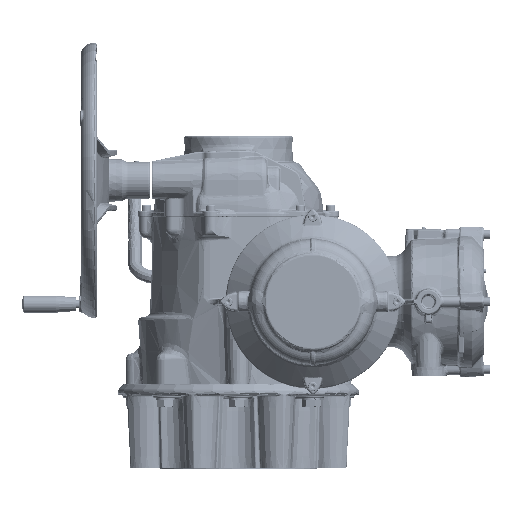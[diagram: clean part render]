
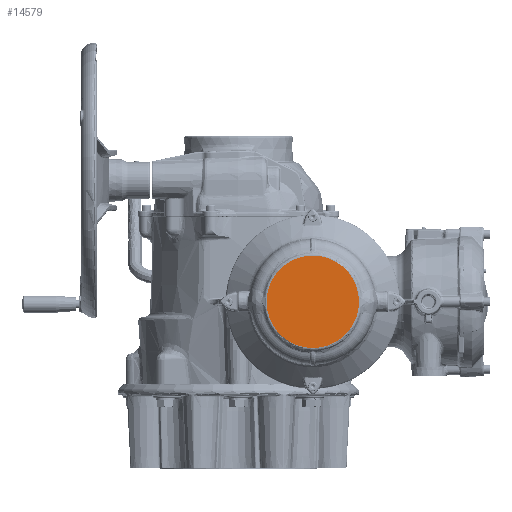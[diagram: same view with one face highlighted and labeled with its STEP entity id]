
A CAD part, left-side view. The second image highlights one B-rep face of the part: STEP entity #14579.
In plain terms, the highlighted planar face has unit normal (-1, 0, 0).
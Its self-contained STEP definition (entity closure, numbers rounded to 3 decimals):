
#14579 = ADVANCED_FACE( '', ( #33673 ), #33674, .T. );
#33673 = FACE_OUTER_BOUND( '', #235393, .T. );
#33674 = PLANE( '', #235394 );
#235393 = EDGE_LOOP( '', ( #437471 ) );
#235394 = AXIS2_PLACEMENT_3D( '', #437472, #437473, #437474 );
#437471 = ORIENTED_EDGE( '', *, *, #475531, .T. );
#437472 = CARTESIAN_POINT( '', ( -487.8, -108., 0. ) );
#437473 = DIRECTION( '', ( -1., 0., 0. ) );
#437474 = DIRECTION( '', ( 0., 0., -1. ) );
#475531 = EDGE_CURVE( '', #503741, #503741, #503742, .T. );
#503741 = VERTEX_POINT( '', #572461 );
#503742 = CIRCLE( '', #572462, 67.19 );
#572461 = CARTESIAN_POINT( '', ( -487.8, -108., -67.19 ) );
#572462 = AXIS2_PLACEMENT_3D( '', #727761, #727762, #727763 );
#727761 = CARTESIAN_POINT( '', ( -487.8, -108., 0. ) );
#727762 = DIRECTION( '', ( -1., 0., 0. ) );
#727763 = DIRECTION( '', ( 0., 0., -1. ) );
